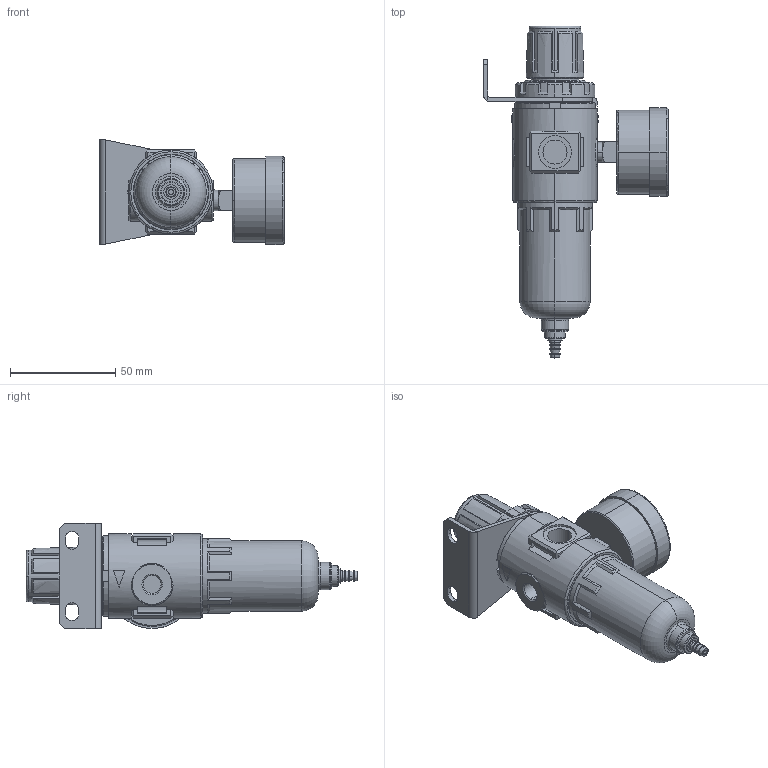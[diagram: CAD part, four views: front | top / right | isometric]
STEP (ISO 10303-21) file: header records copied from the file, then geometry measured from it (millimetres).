
FILE_DESCRIPTION (( 'STEP AP214' ), '1' );
FILE_NAME ('AFR-2000.STEP', '2016-01-21T16:12:18', ( '' ), ( '' ), 'SwSTEP 2.0', 'SolidWorks 2016', '' );
FILE_SCHEMA (( 'AUTOMOTIVE_DESIGN' ));
Length unit declared in the file: millimetre
Products named in the file (6): 3; 4; 1; AFR-2000; 2; 5
Assembly tree (5 placements, depth 2):
  AFR-2000
    1
    2
    3
    4
    5
Bounding box: 88 x 158 x 50 mm (x, y, z)
Volume: 127006.1 mm3; surface area: 43736.1 mm2
Topology: 5 solids, 5 shells, 808 faces, 2203 edges, 1452 vertices
Faces by surface type: plane 496, cylinder 197, cone 93, torus 22
Entity records: 36176 total; most frequent: CARTESIAN_POINT 6394, ORIENTED_EDGE 4406, DIRECTION 4237, EDGE_CURVE 2203, VERTEX_POINT 1452, LINE 1429, VECTOR 1429, AXIS2_PLACEMENT_3D 1404
